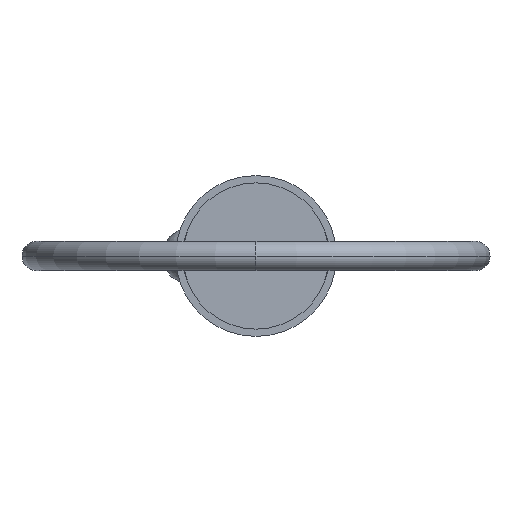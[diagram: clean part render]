
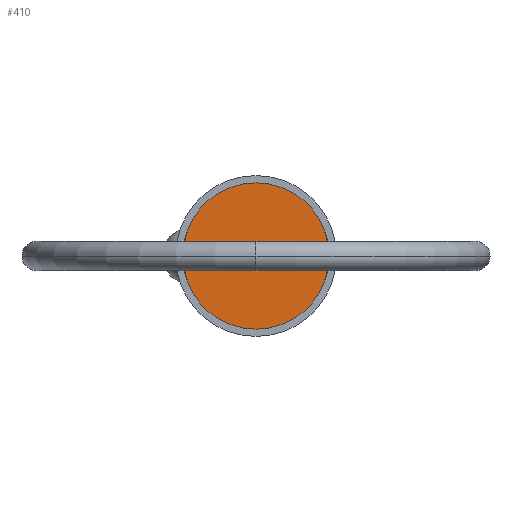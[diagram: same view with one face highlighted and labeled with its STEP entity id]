
A CAD part, left-side view. The second image highlights one B-rep face of the part: STEP entity #410.
In plain terms, the highlighted planar face has unit normal (-1, 0, 0).
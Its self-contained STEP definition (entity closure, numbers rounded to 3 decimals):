
#1 = EDGE_CURVE ( 'NONE', #306, #402, #789, .T. ) ;
#51 = DIRECTION ( 'NONE',  ( 0., 0., -1. ) ) ;
#80 = DIRECTION ( 'NONE',  ( -1., 0., 0. ) ) ;
#84 = FACE_OUTER_BOUND ( 'NONE', #226, .T. ) ;
#125 = DIRECTION ( 'NONE',  ( 1., 0., 0. ) ) ;
#136 = DIRECTION ( 'NONE',  ( 1., 0., 0. ) ) ;
#226 = EDGE_LOOP ( 'NONE', ( #534, #971 ) ) ;
#280 = EDGE_CURVE ( 'NONE', #402, #306, #492, .T. ) ;
#304 = CARTESIAN_POINT ( 'NONE',  ( 0., 0., 9.525 ) ) ;
#306 = VERTEX_POINT ( 'NONE', #304 ) ;
#310 = AXIS2_PLACEMENT_3D ( 'NONE', #705, #136, #881 ) ;
#315 = DIRECTION ( 'NONE',  ( 0., 0., 1. ) ) ;
#386 = CARTESIAN_POINT ( 'NONE',  ( 0., 0., 0. ) ) ;
#402 = VERTEX_POINT ( 'NONE', #965 ) ;
#410 = ADVANCED_FACE ( 'NONE', ( #84 ), #907, .T. ) ;
#412 = AXIS2_PLACEMENT_3D ( 'NONE', #386, #125, #51 ) ;
#485 = CARTESIAN_POINT ( 'NONE',  ( 0., 0., 0. ) ) ;
#492 = CIRCLE ( 'NONE', #412, 9.525 ) ;
#534 = ORIENTED_EDGE ( 'NONE', *, *, #280, .F. ) ;
#608 = AXIS2_PLACEMENT_3D ( 'NONE', #485, #80, #315 ) ;
#705 = CARTESIAN_POINT ( 'NONE',  ( 0., 0., 0. ) ) ;
#789 = CIRCLE ( 'NONE', #310, 9.525 ) ;
#881 = DIRECTION ( 'NONE',  ( 0., 0., -1. ) ) ;
#907 = PLANE ( 'NONE',  #608 ) ;
#965 = CARTESIAN_POINT ( 'NONE',  ( 0., 0., -9.525 ) ) ;
#971 = ORIENTED_EDGE ( 'NONE', *, *, #1, .F. ) ;
